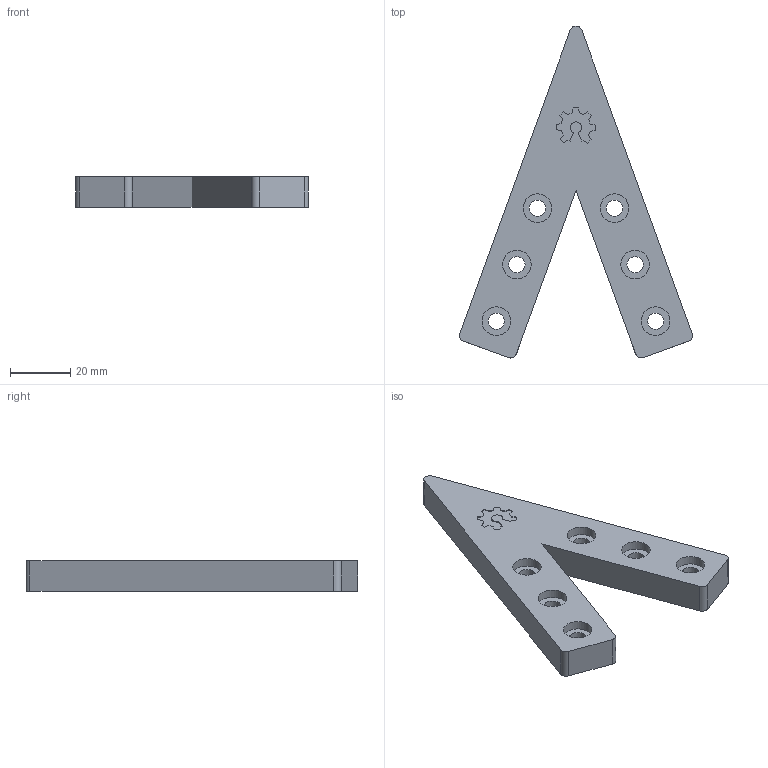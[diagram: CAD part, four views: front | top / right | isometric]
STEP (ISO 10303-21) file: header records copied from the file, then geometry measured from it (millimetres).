
FILE_DESCRIPTION(/* description */ (''),/* implementation_level */ '2;1');
FILE_NAME(/* name */ 'C:\Users\sab\Documents\Inventor\Maker Store Parts\Other Stuff\Christmas Tree V-Slot\Christmas Tree Corner Bracket Type 2.stp',/* time_stamp */ '2025-12-02T11:48:05+11:00',/* author */ ('sab'),/* organization */ (''),/* preprocessor_version */ 'ST-DEVELOPER v17',/* originating_system */ 'Autodesk Inventor 2019',/* authorisation */ '');
FILE_SCHEMA (('AUTOMOTIVE_DESIGN { 1 0 10303 214 3 1 1 }'));
Length unit declared in the file: millimetre
Products named in the file (1): Christmas Tree Corner Bracket Type 2
Bounding box: 77.5 x 110.45 x 10 mm (x, y, z)
Volume: 32632.7 mm3; surface area: 11776.2 mm2
Topology: 1 solids, 1 shells, 64 faces, 177 edges, 122 vertices
Faces by surface type: plane 46, cylinder 18
Full cylindrical faces by diameter (mm): 5.4 x6, 9.5 x6
Entity records: 2128 total; most frequent: CARTESIAN_POINT 364, DIRECTION 355, ORIENTED_EDGE 354, EDGE_CURVE 177, LINE 129, VECTOR 129, VERTEX_POINT 122, AXIS2_PLACEMENT_3D 113
